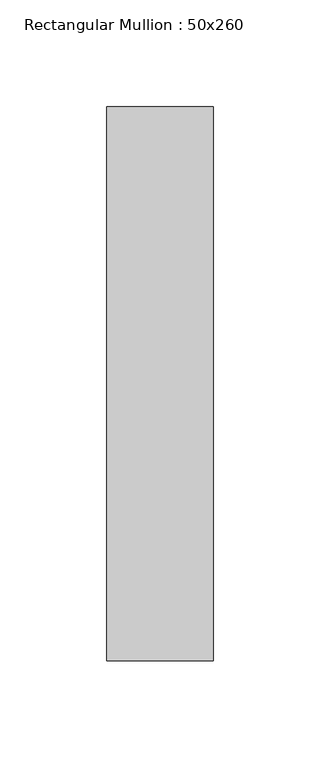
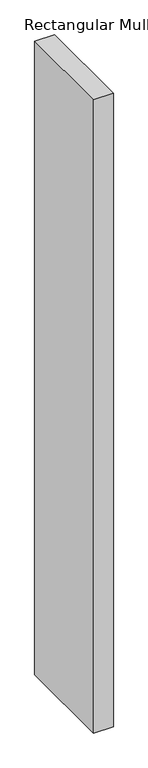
"""IFC4 building model written with IfcOpenShell, lengths in millimetres: member geometry, Rectangular Mullion : 50x260."""

from ifc_helpers import new_model, si_unit, frame, origin, place, context, project, spatial, polyline, outline, extrude, source, transform, mapped, element, save


def rectangular_mullion_50x260_132b4abc(model_context):
    return source(origin(), model_context, "Body", "SweptSolid", [
        extrude(outline(polyline([(0.0, 130.0), (0.0, -130.0), (-50.0, -130.0), (-50.0, 130.0), (0.0, 130.0)])), frame((0.0, 0.0, -1703.9838764), z_axis=(0.0, 0.0, 1.0), x_axis=(1.0, 0.0, 0.0)), (0.0, 0.0, 1.0), 1703.9838764),
    ])


if __name__ == "__main__":
    model = new_model("IFC4")
    model_context = context("Model", 3, world=origin())
    ifc_project = project(units=[si_unit("LENGTHUNIT", "METRE", prefix="MILLI")], contexts=[model_context])
    site = spatial("IfcSite", under=ifc_project)
    building = spatial("IfcBuilding", under=site)
    placement = place(None, origin())
    rectangular_mullion_50x260_shape = rectangular_mullion_50x260_132b4abc(model_context)
    element("IfcMember", 1, ObjectType="Rectangular Mullion : 50x260", at=placement, inside=building, context=model_context, shape_type="MappedRepresentation", body=[
        mapped(rectangular_mullion_50x260_shape, transform((0.0, 0.0, 0.0), x_axis=(1.0, 0.0, 0.0), y_axis=(0.0, 1.0, 0.0), z_axis=(0.0, 0.0, 1.0))),
    ])
    save(model, "model.ifc")
